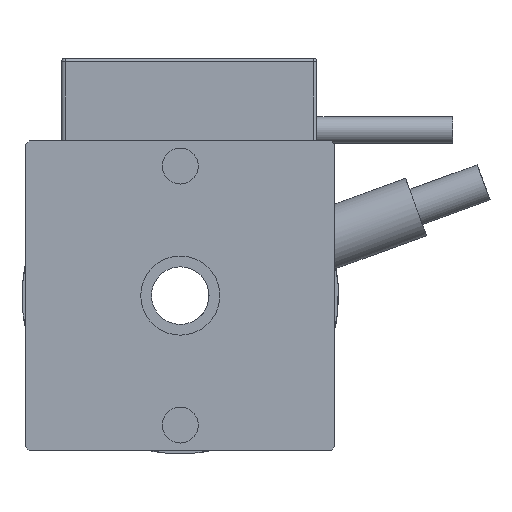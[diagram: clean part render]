
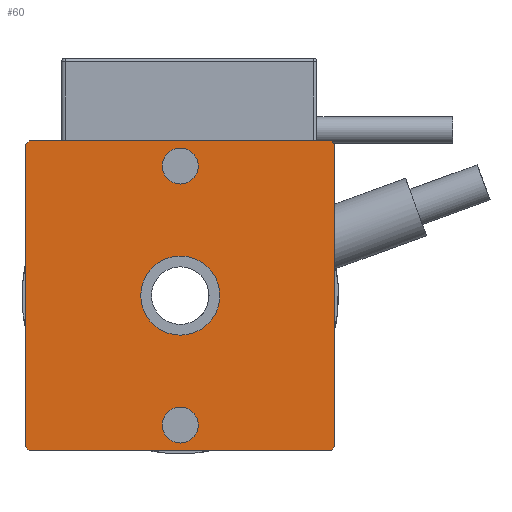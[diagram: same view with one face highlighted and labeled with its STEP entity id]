
A CAD part, left-side view. The second image highlights one B-rep face of the part: STEP entity #60.
In plain terms, the highlighted planar face has unit normal (-1, 0, 0).
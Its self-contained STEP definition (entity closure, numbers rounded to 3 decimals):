
#60 = ADVANCED_FACE( '', ( #177, #178, #179, #180 ), #181, .F. );
#177 = FACE_BOUND( '', #414, .T. );
#178 = FACE_OUTER_BOUND( '', #415, .T. );
#179 = FACE_BOUND( '', #416, .T. );
#180 = FACE_BOUND( '', #417, .T. );
#181 = PLANE( '', #418 );
#414 = EDGE_LOOP( '', ( #742 ) );
#415 = EDGE_LOOP( '', ( #743, #744, #745, #746, #747, #748, #749, #750 ) );
#416 = EDGE_LOOP( '', ( #751 ) );
#417 = EDGE_LOOP( '', ( #752 ) );
#418 = AXIS2_PLACEMENT_3D( '', #753, #754, #755 );
#742 = ORIENTED_EDGE( '', *, *, #1383, .T. );
#743 = ORIENTED_EDGE( '', *, *, #1384, .F. );
#744 = ORIENTED_EDGE( '', *, *, #1385, .F. );
#745 = ORIENTED_EDGE( '', *, *, #1386, .F. );
#746 = ORIENTED_EDGE( '', *, *, #1379, .F. );
#747 = ORIENTED_EDGE( '', *, *, #1387, .F. );
#748 = ORIENTED_EDGE( '', *, *, #1388, .F. );
#749 = ORIENTED_EDGE( '', *, *, #1389, .F. );
#750 = ORIENTED_EDGE( '', *, *, #1390, .F. );
#751 = ORIENTED_EDGE( '', *, *, #1391, .F. );
#752 = ORIENTED_EDGE( '', *, *, #1392, .T. );
#753 = CARTESIAN_POINT( '', ( -46.5, 0., 0. ) );
#754 = DIRECTION( '', ( 1., 0., 0. ) );
#755 = DIRECTION( '', ( 0., 0., -1. ) );
#1379 = EDGE_CURVE( '', #1597, #1599, #1600, .T. );
#1383 = EDGE_CURVE( '', #1606, #1606, #1607, .T. );
#1384 = EDGE_CURVE( '', #1608, #1609, #1610, .T. );
#1385 = EDGE_CURVE( '', #1611, #1608, #1612, .T. );
#1386 = EDGE_CURVE( '', #1599, #1611, #1613, .T. );
#1387 = EDGE_CURVE( '', #1614, #1597, #1615, .T. );
#1388 = EDGE_CURVE( '', #1616, #1614, #1617, .T. );
#1389 = EDGE_CURVE( '', #1618, #1616, #1619, .T. );
#1390 = EDGE_CURVE( '', #1609, #1618, #1620, .T. );
#1391 = EDGE_CURVE( '', #1621, #1621, #1622, .T. );
#1392 = EDGE_CURVE( '', #1623, #1623, #1624, .T. );
#1597 = VERTEX_POINT( '', #2250 );
#1599 = VERTEX_POINT( '', #2253 );
#1600 = LINE( '', #2254, #2255 );
#1606 = VERTEX_POINT( '', #2263 );
#1607 = CIRCLE( '', #2264, 2.5 );
#1608 = VERTEX_POINT( '', #2265 );
#1609 = VERTEX_POINT( '', #2266 );
#1610 = LINE( '', #2267, #2268 );
#1611 = VERTEX_POINT( '', #2269 );
#1612 = LINE( '', #2270, #2271 );
#1613 = LINE( '', #2272, #2273 );
#1614 = VERTEX_POINT( '', #2274 );
#1615 = LINE( '', #2275, #2276 );
#1616 = VERTEX_POINT( '', #2277 );
#1617 = LINE( '', #2278, #2279 );
#1618 = VERTEX_POINT( '', #2280 );
#1619 = LINE( '', #2281, #2282 );
#1620 = LINE( '', #2283, #2284 );
#1621 = VERTEX_POINT( '', #2285 );
#1622 = CIRCLE( '', #2286, 5.5 );
#1623 = VERTEX_POINT( '', #2287 );
#1624 = CIRCLE( '', #2288, 2.5 );
#2250 = CARTESIAN_POINT( '', ( -46.5, -21.5, 21. ) );
#2253 = CARTESIAN_POINT( '', ( -46.5, -21.5, -21. ) );
#2254 = CARTESIAN_POINT( '', ( -46.5, -21.5, 21. ) );
#2255 = VECTOR( '', #2692, 1000. );
#2263 = CARTESIAN_POINT( '', ( -46.5, -2.5, 18. ) );
#2264 = AXIS2_PLACEMENT_3D( '', #2698, #2699, #2700 );
#2265 = CARTESIAN_POINT( '', ( -46.5, 21., -21.5 ) );
#2266 = CARTESIAN_POINT( '', ( -46.5, 21.5, -21. ) );
#2267 = CARTESIAN_POINT( '', ( -46.5, 21.5, -21. ) );
#2268 = VECTOR( '', #2701, 1000. );
#2269 = CARTESIAN_POINT( '', ( -46.5, -21., -21.5 ) );
#2270 = CARTESIAN_POINT( '', ( -46.5, -21., -21.5 ) );
#2271 = VECTOR( '', #2702, 1000. );
#2272 = CARTESIAN_POINT( '', ( -46.5, -21., -21.5 ) );
#2273 = VECTOR( '', #2703, 1000. );
#2274 = CARTESIAN_POINT( '', ( -46.5, -21., 21.5 ) );
#2275 = CARTESIAN_POINT( '', ( -46.5, -21., 21.5 ) );
#2276 = VECTOR( '', #2704, 1000. );
#2277 = CARTESIAN_POINT( '', ( -46.5, 21., 21.5 ) );
#2278 = CARTESIAN_POINT( '', ( -46.5, 21., 21.5 ) );
#2279 = VECTOR( '', #2705, 1000. );
#2280 = CARTESIAN_POINT( '', ( -46.5, 21.5, 21. ) );
#2281 = CARTESIAN_POINT( '', ( -46.5, 21., 21.5 ) );
#2282 = VECTOR( '', #2706, 1000. );
#2283 = CARTESIAN_POINT( '', ( -46.5, 21.5, -21. ) );
#2284 = VECTOR( '', #2707, 1000. );
#2285 = CARTESIAN_POINT( '', ( -46.5, -5.5, 0. ) );
#2286 = AXIS2_PLACEMENT_3D( '', #2708, #2709, #2710 );
#2287 = CARTESIAN_POINT( '', ( -46.5, -2.5, -18. ) );
#2288 = AXIS2_PLACEMENT_3D( '', #2711, #2712, #2713 );
#2692 = DIRECTION( '', ( 0., 0., -1. ) );
#2698 = CARTESIAN_POINT( '', ( -46.5, 0., 18. ) );
#2699 = DIRECTION( '', ( 1., 0., 0. ) );
#2700 = DIRECTION( '', ( 0., -1., 0. ) );
#2701 = DIRECTION( '', ( 0., 0.707, 0.707 ) );
#2702 = DIRECTION( '', ( 0., 1., 0. ) );
#2703 = DIRECTION( '', ( 0., 0.707, -0.707 ) );
#2704 = DIRECTION( '', ( 0., -0.707, -0.707 ) );
#2705 = DIRECTION( '', ( 0., -1., 0. ) );
#2706 = DIRECTION( '', ( 0., -0.707, 0.707 ) );
#2707 = DIRECTION( '', ( 0., 0., 1. ) );
#2708 = CARTESIAN_POINT( '', ( -46.5, 0., 0. ) );
#2709 = DIRECTION( '', ( -1., 0., 0. ) );
#2710 = DIRECTION( '', ( 0., -1., 0. ) );
#2711 = CARTESIAN_POINT( '', ( -46.5, 0., -18. ) );
#2712 = DIRECTION( '', ( 1., 0., 0. ) );
#2713 = DIRECTION( '', ( 0., -1., 0. ) );
